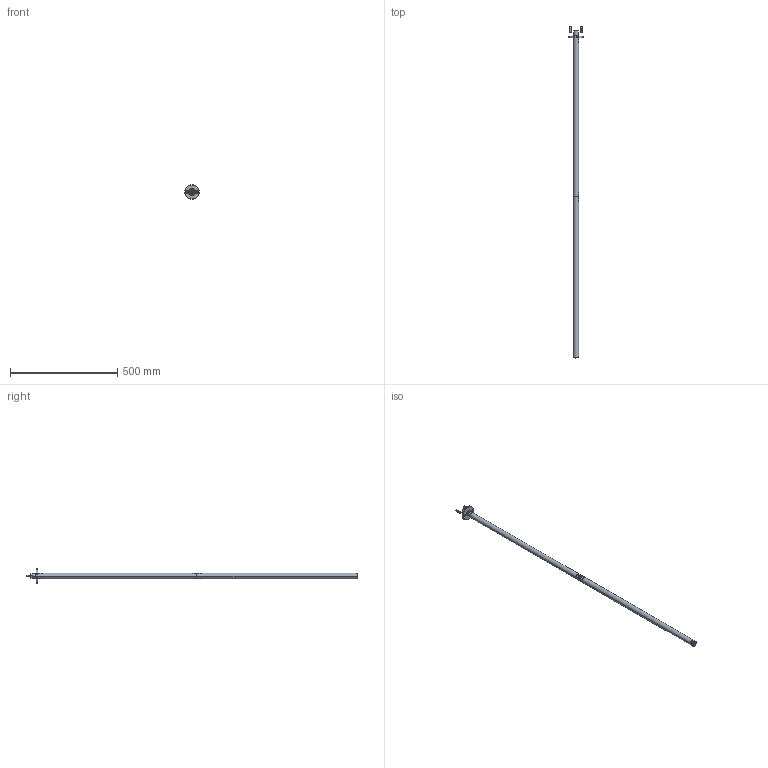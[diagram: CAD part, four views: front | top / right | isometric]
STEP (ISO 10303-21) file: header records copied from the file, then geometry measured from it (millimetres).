
FILE_DESCRIPTION((''),'2;1');
FILE_NAME('12997_ASM','2024-02-19T09:34:16',('carloff'),(''),'CREO PARAMETRIC BY PTC INC, 2022014','CREO PARAMETRIC BY PTC INC, 2022014','');
FILE_SCHEMA(('CONFIG_CONTROL_DESIGN'));
Products named in the file (16): D534000240; D534000242_AF0; A450000103; D517C90761_AF0; A503B60086_AF0; A503B60086_AF1; D523000206_AF0; D456C90220_AF0; A536A80217_AF0; A536A80217_AF1; D517C90762; A503B60086_AF2; A503B60086_AF3; A536A80212_AF0; A536A80212_AF1; 12997_ASM
Assembly tree (15 placements, depth 2):
  12997_ASM
    D534000240
    D534000242_AF0
    A450000103
    D517C90761_AF0
    A503B60086_AF0
    A503B60086_AF1
    D523000206_AF0
    D456C90220_AF0
    A536A80217_AF0
    A536A80217_AF1
    D517C90762
    A503B60086_AF2
    A503B60086_AF3
    A536A80212_AF0
    A536A80212_AF1
Bounding box: 69 x 1550.06 x 69 mm (x, y, z)
Volume: 357308.7 mm3; surface area: 258211.5 mm2
Topology: 13 solids, 25 shells, 4066 faces, 12024 edges, 7956 vertices
Faces by surface type: plane 3152, torus 424, cylinder 292, bspline 86, cone 72, extrusion 26, sphere 14
Entity records: 168739 total; most frequent: CARTESIAN_POINT 69749, ORIENTED_EDGE 23768, DIRECTION 15269, EDGE_CURVE 12010, VERTEX_POINT 7956, B_SPLINE_CURVE_WITH_KNOTS 6295, AXIS2_PLACEMENT_3D 5509, EDGE_LOOP 4888
